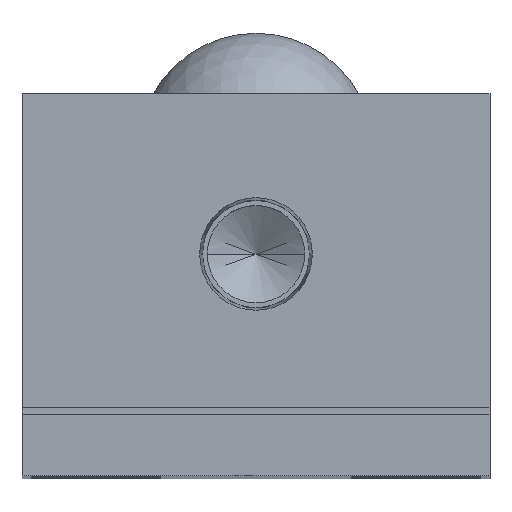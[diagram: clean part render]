
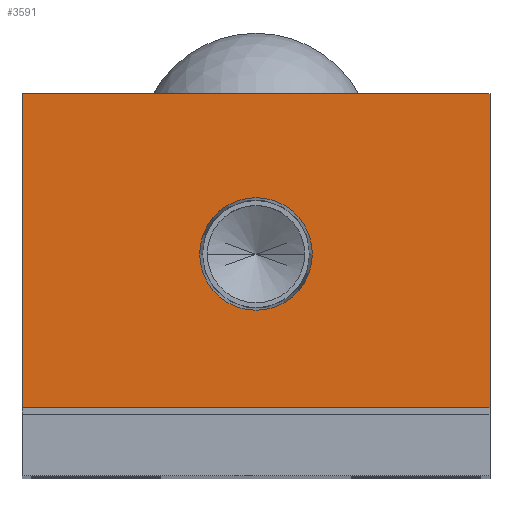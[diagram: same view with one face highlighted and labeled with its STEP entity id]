
A CAD part, top view. The second image highlights one B-rep face of the part: STEP entity #3591.
In plain terms, the highlighted planar face has unit normal (0, 0, 1).
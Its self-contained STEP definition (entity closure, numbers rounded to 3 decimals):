
#6 = CARTESIAN_POINT ( 'NONE',  ( 4.574, 18., 0. ) ) ;
#16 = CARTESIAN_POINT ( 'NONE',  ( 19., 5.5, 0. ) ) ;
#361 = CARTESIAN_POINT ( 'NONE',  ( 19., 31., 0. ) ) ;
#447 = DIRECTION ( 'NONE',  ( -1., 0., 0. ) ) ;
#497 = FACE_OUTER_BOUND ( 'NONE', #5281, .T. ) ;
#875 = CARTESIAN_POINT ( 'NONE',  ( 0., 0., 0. ) ) ;
#916 = ORIENTED_EDGE ( 'NONE', *, *, #5492, .T. ) ;
#923 = VECTOR ( 'NONE', #447, 1000. ) ;
#940 = DIRECTION ( 'NONE',  ( 0., -1., 0. ) ) ;
#972 = DIRECTION ( 'NONE',  ( 0., 0., 1. ) ) ;
#1033 = CARTESIAN_POINT ( 'NONE',  ( 0., 18., 0. ) ) ;
#1397 = DIRECTION ( 'NONE',  ( 0., 0., 1. ) ) ;
#1398 = EDGE_CURVE ( 'NONE', #3113, #3639, #2204, .T. ) ;
#1524 = DIRECTION ( 'NONE',  ( 1., 0., 0. ) ) ;
#1845 = ORIENTED_EDGE ( 'NONE', *, *, #2859, .F. ) ;
#1965 = VECTOR ( 'NONE', #5989, 1000. ) ;
#2084 = CARTESIAN_POINT ( 'NONE',  ( 19., 5.5, 0. ) ) ;
#2204 = LINE ( 'NONE', #6312, #923 ) ;
#2467 = VERTEX_POINT ( 'NONE', #16 ) ;
#2776 = AXIS2_PLACEMENT_3D ( 'NONE', #3930, #972, #4418 ) ;
#2859 = EDGE_CURVE ( 'NONE', #5421, #6204, #5351, .T. ) ;
#2970 = LINE ( 'NONE', #2084, #1965 ) ;
#3113 = VERTEX_POINT ( 'NONE', #361 ) ;
#3393 = CARTESIAN_POINT ( 'NONE',  ( -19., 31., 0. ) ) ;
#3405 = CARTESIAN_POINT ( 'NONE',  ( -19., 5.5, 0. ) ) ;
#3591 = ADVANCED_FACE ( 'NONE', ( #5264, #497 ), #4354, .T. ) ;
#3615 = ORIENTED_EDGE ( 'NONE', *, *, #6322, .T. ) ;
#3624 = VERTEX_POINT ( 'NONE', #3405 ) ;
#3639 = VERTEX_POINT ( 'NONE', #5834 ) ;
#3772 = EDGE_CURVE ( 'NONE', #3624, #2467, #5488, .T. ) ;
#3858 = AXIS2_PLACEMENT_3D ( 'NONE', #875, #1397, #4848 ) ;
#3928 = EDGE_LOOP ( 'NONE', ( #4677, #1845 ) ) ;
#3930 = CARTESIAN_POINT ( 'NONE',  ( 0., 18., 0. ) ) ;
#4196 = VECTOR ( 'NONE', #4657, 1000. ) ;
#4326 = CARTESIAN_POINT ( 'NONE',  ( -4.574, 18., 0. ) ) ;
#4354 = PLANE ( 'NONE',  #3858 ) ;
#4417 = ORIENTED_EDGE ( 'NONE', *, *, #1398, .T. ) ;
#4418 = DIRECTION ( 'NONE',  ( 1., 0., 0. ) ) ;
#4459 = LINE ( 'NONE', #3393, #5442 ) ;
#4479 = DIRECTION ( 'NONE',  ( 0., 0., 1. ) ) ;
#4657 = DIRECTION ( 'NONE',  ( 1., 0., 0. ) ) ;
#4677 = ORIENTED_EDGE ( 'NONE', *, *, #5002, .F. ) ;
#4848 = DIRECTION ( 'NONE',  ( 1., 0., 0. ) ) ;
#5002 = EDGE_CURVE ( 'NONE', #6204, #5421, #5883, .T. ) ;
#5264 = FACE_BOUND ( 'NONE', #3928, .T. ) ;
#5281 = EDGE_LOOP ( 'NONE', ( #6167, #3615, #4417, #916 ) ) ;
#5351 = CIRCLE ( 'NONE', #5955, 4.574 ) ;
#5421 = VERTEX_POINT ( 'NONE', #4326 ) ;
#5442 = VECTOR ( 'NONE', #940, 1000. ) ;
#5488 = LINE ( 'NONE', #6075, #4196 ) ;
#5492 = EDGE_CURVE ( 'NONE', #3639, #3624, #4459, .T. ) ;
#5834 = CARTESIAN_POINT ( 'NONE',  ( -19., 31., 0. ) ) ;
#5883 = CIRCLE ( 'NONE', #2776, 4.574 ) ;
#5955 = AXIS2_PLACEMENT_3D ( 'NONE', #1033, #4479, #1524 ) ;
#5989 = DIRECTION ( 'NONE',  ( 0., 1., 0. ) ) ;
#6075 = CARTESIAN_POINT ( 'NONE',  ( 19., 5.5, 0. ) ) ;
#6167 = ORIENTED_EDGE ( 'NONE', *, *, #3772, .T. ) ;
#6204 = VERTEX_POINT ( 'NONE', #6 ) ;
#6312 = CARTESIAN_POINT ( 'NONE',  ( 19., 31., 0. ) ) ;
#6322 = EDGE_CURVE ( 'NONE', #2467, #3113, #2970, .T. ) ;
